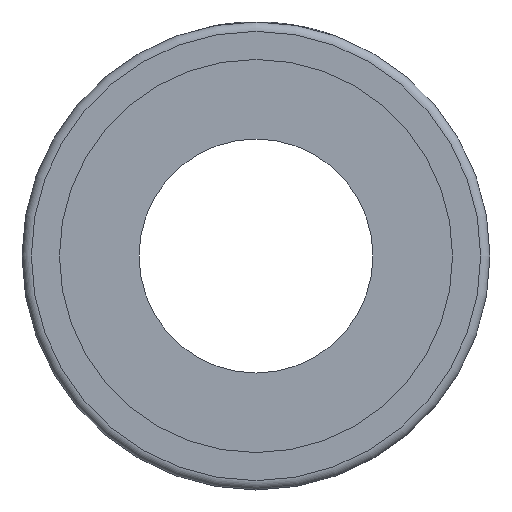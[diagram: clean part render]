
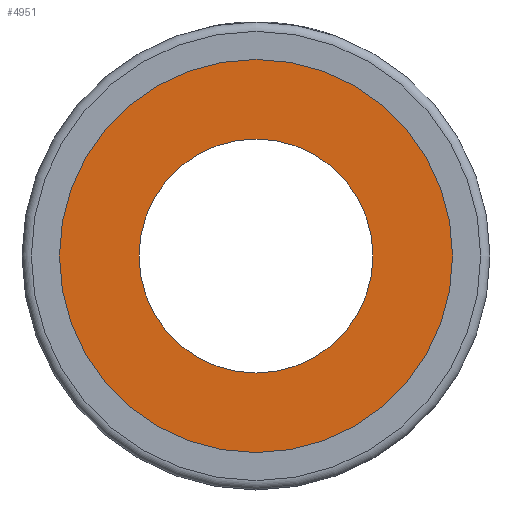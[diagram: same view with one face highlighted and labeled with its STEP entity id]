
A CAD part, left-side view. The second image highlights one B-rep face of the part: STEP entity #4951.
In plain terms, the highlighted planar face has unit normal (-1, 0, 0).
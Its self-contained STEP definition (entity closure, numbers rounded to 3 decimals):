
#121=PLANE('',#5343);
#346=CIRCLE('',#5340,4.2);
#348=CIRCLE('',#5344,2.5);
#1487=ORIENTED_EDGE('',*,*,#2958,.F.);
#1488=ORIENTED_EDGE('',*,*,#2956,.F.);
#2956=EDGE_CURVE('',#3699,#3699,#346,.T.);
#2958=EDGE_CURVE('',#3701,#3701,#348,.T.);
#3699=VERTEX_POINT('',#7623);
#3701=VERTEX_POINT('',#7629);
#4221=EDGE_LOOP('',(#1487));
#4222=EDGE_LOOP('',(#1488));
#4586=FACE_BOUND('',#4221,.T.);
#4587=FACE_BOUND('',#4222,.T.);
#4951=ADVANCED_FACE('',(#4586,#4587),#121,.T.);
#5340=AXIS2_PLACEMENT_3D('',#7622,#5862,#5863);
#5343=AXIS2_PLACEMENT_3D('',#7627,#5868,#5869);
#5344=AXIS2_PLACEMENT_3D('',#7628,#5870,#5871);
#5862=DIRECTION('',(1.,0.,0.));
#5863=DIRECTION('',(0.,-1.,0.));
#5868=DIRECTION('',(-1.,0.,0.));
#5869=DIRECTION('',(0.,0.,1.));
#5870=DIRECTION('',(-1.,0.,0.));
#5871=DIRECTION('',(0.,0.,1.));
#7622=CARTESIAN_POINT('',(-7.35,0.,0.));
#7623=CARTESIAN_POINT('',(-7.35,-4.2,0.));
#7627=CARTESIAN_POINT('',(-7.35,0.,0.));
#7628=CARTESIAN_POINT('',(-7.35,0.,0.));
#7629=CARTESIAN_POINT('',(-7.35,0.,2.5));
